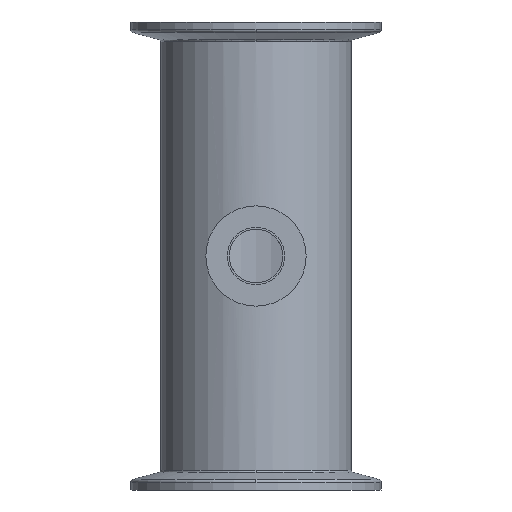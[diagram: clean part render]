
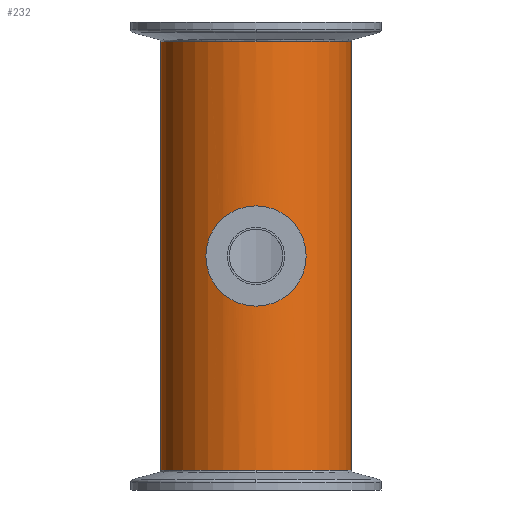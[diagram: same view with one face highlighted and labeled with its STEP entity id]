
A CAD part, front view. The second image highlights one B-rep face of the part: STEP entity #232.
In plain terms, the highlighted cylindrical face has radius 28.5 mm (diameter 57 mm), a partial arc.
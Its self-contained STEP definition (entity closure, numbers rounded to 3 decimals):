
#125=CARTESIAN_POINT('',(0.0,0.0,0.0));
#126=DIRECTION('',(0.0,0.0,1.0));
#127=DIRECTION('',(-1.0,0.0,0.0));
#128=AXIS2_PLACEMENT_3D('',#125,#126,#127);
#129=CYLINDRICAL_SURFACE('',#128,28.5);
#130=CARTESIAN_POINT('',(-28.5,0.,-64.128));
#131=VERTEX_POINT('',#130);
#132=CARTESIAN_POINT('',(-28.5,0.0,64.128));
#133=VERTEX_POINT('',#132);
#134=CARTESIAN_POINT('',(-28.5,0.,-64.128));
#135=DIRECTION('',(0.0,0.0,1.0));
#136=VECTOR('',#135,128.256);
#137=LINE('',#134,#136);
#138=EDGE_CURVE('',#131,#133,#137,.T.);
#139=ORIENTED_EDGE('',*,*,#138,.F.);
#140=CARTESIAN_POINT('',(0.,-28.5,-64.128));
#141=VERTEX_POINT('',#140);
#142=CARTESIAN_POINT('',(0.0,0.0,-64.128));
#143=DIRECTION('',(0.0,0.0,-1.0));
#144=DIRECTION('',(-1.0,0.0,0.0));
#145=AXIS2_PLACEMENT_3D('',#142,#143,#144);
#146=CIRCLE('',#145,28.5);
#147=EDGE_CURVE('',#141,#131,#146,.T.);
#148=ORIENTED_EDGE('',*,*,#147,.F.);
#149=CARTESIAN_POINT('',(28.5,0.0,-64.128));
#150=VERTEX_POINT('',#149);
#151=CARTESIAN_POINT('',(0.0,0.0,-64.128));
#152=DIRECTION('',(0.0,0.0,-1.0));
#153=DIRECTION('',(-1.0,0.0,0.0));
#154=AXIS2_PLACEMENT_3D('',#151,#152,#153);
#155=CIRCLE('',#154,28.5);
#156=EDGE_CURVE('',#150,#141,#155,.T.);
#157=ORIENTED_EDGE('',*,*,#156,.F.);
#158=CARTESIAN_POINT('',(28.5,0.,64.128));
#159=VERTEX_POINT('',#158);
#160=CARTESIAN_POINT('',(28.5,0.,64.128));
#161=DIRECTION('',(0.0,0.0,-1.0));
#162=VECTOR('',#161,128.256);
#163=LINE('',#160,#162);
#164=EDGE_CURVE('',#159,#150,#163,.T.);
#165=ORIENTED_EDGE('',*,*,#164,.F.);
#166=CARTESIAN_POINT('',(0.,-28.5,64.128));
#167=VERTEX_POINT('',#166);
#168=CARTESIAN_POINT('',(0.0,0.0,64.128));
#169=DIRECTION('',(0.0,0.0,1.0));
#170=DIRECTION('',(1.0,0.0,0.0));
#171=AXIS2_PLACEMENT_3D('',#168,#169,#170);
#172=CIRCLE('',#171,28.5);
#173=EDGE_CURVE('',#167,#159,#172,.T.);
#174=ORIENTED_EDGE('',*,*,#173,.F.);
#175=CARTESIAN_POINT('',(0.0,0.0,64.128));
#176=DIRECTION('',(0.0,0.0,1.0));
#177=DIRECTION('',(1.0,0.0,0.0));
#178=AXIS2_PLACEMENT_3D('',#175,#176,#177);
#179=CIRCLE('',#178,28.5);
#180=EDGE_CURVE('',#133,#167,#179,.T.);
#181=ORIENTED_EDGE('',*,*,#180,.F.);
#182=EDGE_LOOP('',(#139,#148,#157,#165,#174,#181));
#183=FACE_OUTER_BOUND('',#182,.T.);
#184=CARTESIAN_POINT('',(10.0,-26.688,0.0));
#185=VERTEX_POINT('',#184);
#186=CARTESIAN_POINT('',(-10.0,-26.688,0.));
#187=VERTEX_POINT('',#186);
#188=CARTESIAN_POINT('',(10.0,-26.688,0.0));
#189=CARTESIAN_POINT('',(10.0,-26.688,-1.268));
#190=CARTESIAN_POINT('',(9.744,-26.788,-2.612));
#191=CARTESIAN_POINT('',(8.721,-27.138,-5.072));
#192=CARTESIAN_POINT('',(7.953,-27.383,-6.189));
#193=CARTESIAN_POINT('',(6.189,-27.835,-7.953));
#194=CARTESIAN_POINT('',(5.072,-28.073,-8.721));
#195=CARTESIAN_POINT('',(2.611,-28.407,-9.745));
#196=CARTESIAN_POINT('',(1.267,-28.5,-10.0));
#197=CARTESIAN_POINT('',(-1.267,-28.5,-10.0));
#198=CARTESIAN_POINT('',(-2.611,-28.407,-9.745));
#199=CARTESIAN_POINT('',(-5.072,-28.073,-8.721));
#200=CARTESIAN_POINT('',(-6.189,-27.835,-7.953));
#201=CARTESIAN_POINT('',(-7.953,-27.383,-6.189));
#202=CARTESIAN_POINT('',(-8.721,-27.138,-5.072));
#203=CARTESIAN_POINT('',(-9.744,-26.788,-2.612));
#204=CARTESIAN_POINT('',(-10.0,-26.688,-1.268));
#205=CARTESIAN_POINT('',(-10.0,-26.688,0.));
#206=B_SPLINE_CURVE_WITH_KNOTS('',3,(#188,#189,#190,#191,#192,#193,#194,#195,#196,#197,#198,#199,#200,#201,#202,#203,#204,#205),.UNSPECIFIED.,.F.,.U.,(4,2,2,2,2,2,2,2,4),(0.0,0.38,0.761,1.141,1.521,1.901,2.281,2.661,3.042),.UNSPECIFIED.);
#207=EDGE_CURVE('',#185,#187,#206,.T.);
#208=ORIENTED_EDGE('',*,*,#207,.T.);
#209=CARTESIAN_POINT('',(-10.0,-26.688,0.));
#210=CARTESIAN_POINT('',(-10.0,-26.688,1.268));
#211=CARTESIAN_POINT('',(-9.744,-26.788,2.612));
#212=CARTESIAN_POINT('',(-8.721,-27.138,5.072));
#213=CARTESIAN_POINT('',(-7.953,-27.383,6.189));
#214=CARTESIAN_POINT('',(-6.189,-27.835,7.953));
#215=CARTESIAN_POINT('',(-5.072,-28.073,8.721));
#216=CARTESIAN_POINT('',(-2.611,-28.407,9.745));
#217=CARTESIAN_POINT('',(-1.267,-28.5,10.0));
#218=CARTESIAN_POINT('',(1.267,-28.5,10.0));
#219=CARTESIAN_POINT('',(2.611,-28.407,9.745));
#220=CARTESIAN_POINT('',(5.072,-28.073,8.721));
#221=CARTESIAN_POINT('',(6.189,-27.835,7.953));
#222=CARTESIAN_POINT('',(7.953,-27.383,6.189));
#223=CARTESIAN_POINT('',(8.721,-27.138,5.072));
#224=CARTESIAN_POINT('',(9.744,-26.788,2.612));
#225=CARTESIAN_POINT('',(10.0,-26.688,1.268));
#226=CARTESIAN_POINT('',(10.0,-26.688,0.0));
#227=B_SPLINE_CURVE_WITH_KNOTS('',3,(#209,#210,#211,#212,#213,#214,#215,#216,#217,#218,#219,#220,#221,#222,#223,#224,#225,#226),.UNSPECIFIED.,.F.,.U.,(4,2,2,2,2,2,2,2,4),(3.042,3.422,3.802,4.182,4.563,4.943,5.323,5.703,6.083),.UNSPECIFIED.);
#228=EDGE_CURVE('',#187,#185,#227,.T.);
#229=ORIENTED_EDGE('',*,*,#228,.T.);
#230=EDGE_LOOP('',(#208,#229));
#231=FACE_BOUND('',#230,.T.);
#232=ADVANCED_FACE('',(#183,#231),#129,.T.);
